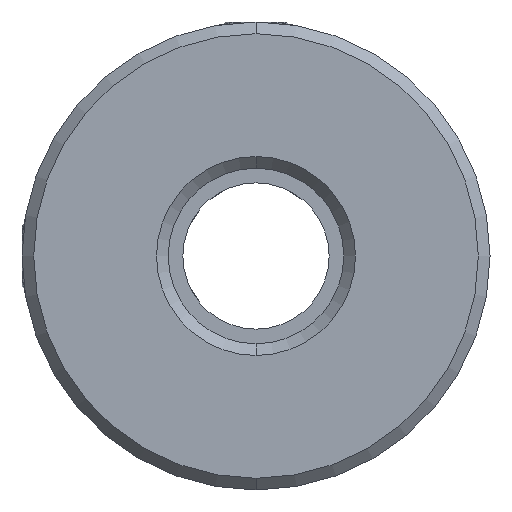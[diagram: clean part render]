
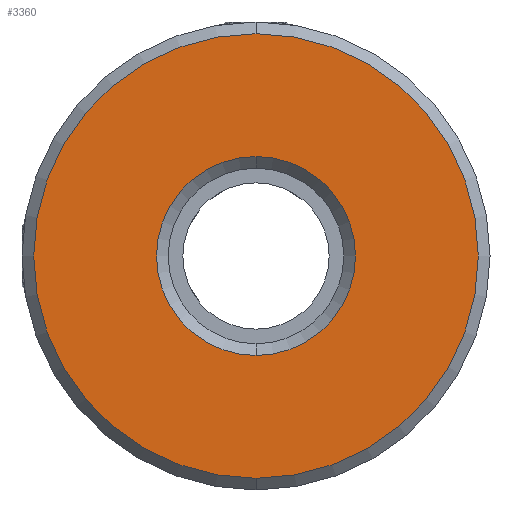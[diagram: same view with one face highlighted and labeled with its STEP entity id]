
A CAD part, front view. The second image highlights one B-rep face of the part: STEP entity #3360.
In plain terms, the highlighted planar face has unit normal (0, -1, 0).
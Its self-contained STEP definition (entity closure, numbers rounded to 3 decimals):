
#362 = VERTEX_POINT ( 'NONE', #3392 ) ;
#396 = DIRECTION ( 'NONE',  ( 0., -1., 0. ) ) ;
#706 = FACE_BOUND ( 'NONE', #2436, .T. ) ;
#711 = AXIS2_PLACEMENT_3D ( 'NONE', #1953, #1099, #2582 ) ;
#755 = EDGE_LOOP ( 'NONE', ( #2736, #1177 ) ) ;
#757 = EDGE_CURVE ( 'NONE', #362, #2799, #1147, .T. ) ;
#908 = CARTESIAN_POINT ( 'NONE',  ( -10.188, -0.277, 0.046 ) ) ;
#965 = PLANE ( 'NONE',  #1674 ) ;
#1073 = CIRCLE ( 'NONE', #3425, 6.8 ) ;
#1099 = DIRECTION ( 'NONE',  ( 0., 1., 0. ) ) ;
#1147 = CIRCLE ( 'NONE', #2562, 15.2 ) ;
#1163 = DIRECTION ( 'NONE',  ( 0., 0., 1. ) ) ;
#1177 = ORIENTED_EDGE ( 'NONE', *, *, #1443, .T. ) ;
#1334 = FACE_OUTER_BOUND ( 'NONE', #755, .T. ) ;
#1420 = DIRECTION ( 'NONE',  ( 0., -1., 0. ) ) ;
#1443 = EDGE_CURVE ( 'NONE', #2799, #362, #1653, .T. ) ;
#1554 = CARTESIAN_POINT ( 'NONE',  ( -10.188, -0.277, -6.754 ) ) ;
#1569 = VERTEX_POINT ( 'NONE', #3721 ) ;
#1653 = CIRCLE ( 'NONE', #3385, 15.2 ) ;
#1674 = AXIS2_PLACEMENT_3D ( 'NONE', #2222, #2154, #3072 ) ;
#1953 = CARTESIAN_POINT ( 'NONE',  ( -10.188, -0.277, 0.046 ) ) ;
#1988 = ORIENTED_EDGE ( 'NONE', *, *, #2198, .T. ) ;
#2048 = CARTESIAN_POINT ( 'NONE',  ( -10.188, -0.277, -15.154 ) ) ;
#2154 = DIRECTION ( 'NONE',  ( 0., 1., 0. ) ) ;
#2198 = EDGE_CURVE ( 'NONE', #1569, #3469, #1073, .T. ) ;
#2222 = CARTESIAN_POINT ( 'NONE',  ( -10.188, -0.277, 0.046 ) ) ;
#2274 = DIRECTION ( 'NONE',  ( 0., 1., 0. ) ) ;
#2358 = CIRCLE ( 'NONE', #711, 6.8 ) ;
#2436 = EDGE_LOOP ( 'NONE', ( #3325, #1988 ) ) ;
#2562 = AXIS2_PLACEMENT_3D ( 'NONE', #2957, #396, #3318 ) ;
#2582 = DIRECTION ( 'NONE',  ( 0., 0., 1. ) ) ;
#2670 = EDGE_CURVE ( 'NONE', #3469, #1569, #2358, .T. ) ;
#2736 = ORIENTED_EDGE ( 'NONE', *, *, #757, .T. ) ;
#2799 = VERTEX_POINT ( 'NONE', #2048 ) ;
#2863 = CARTESIAN_POINT ( 'NONE',  ( -10.188, -0.277, 0.046 ) ) ;
#2957 = CARTESIAN_POINT ( 'NONE',  ( -10.188, -0.277, 0.046 ) ) ;
#3072 = DIRECTION ( 'NONE',  ( 0., 0., 1. ) ) ;
#3121 = DIRECTION ( 'NONE',  ( 0., 0., 1. ) ) ;
#3318 = DIRECTION ( 'NONE',  ( 0., 0., 1. ) ) ;
#3325 = ORIENTED_EDGE ( 'NONE', *, *, #2670, .T. ) ;
#3360 = ADVANCED_FACE ( 'NONE', ( #1334, #706 ), #965, .F. ) ;
#3385 = AXIS2_PLACEMENT_3D ( 'NONE', #2863, #1420, #1163 ) ;
#3392 = CARTESIAN_POINT ( 'NONE',  ( -10.188, -0.277, 15.246 ) ) ;
#3425 = AXIS2_PLACEMENT_3D ( 'NONE', #908, #2274, #3121 ) ;
#3469 = VERTEX_POINT ( 'NONE', #1554 ) ;
#3721 = CARTESIAN_POINT ( 'NONE',  ( -10.188, -0.277, 6.846 ) ) ;
